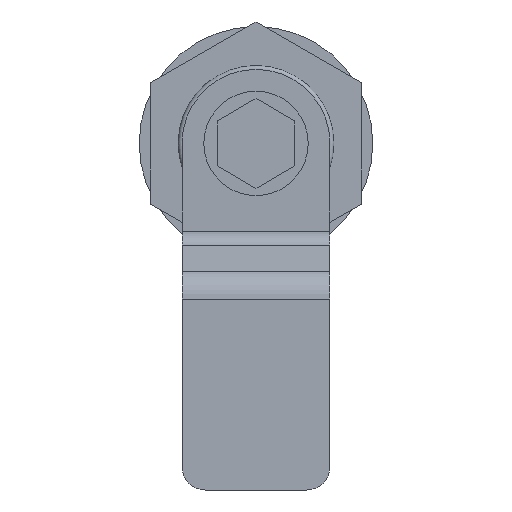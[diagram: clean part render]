
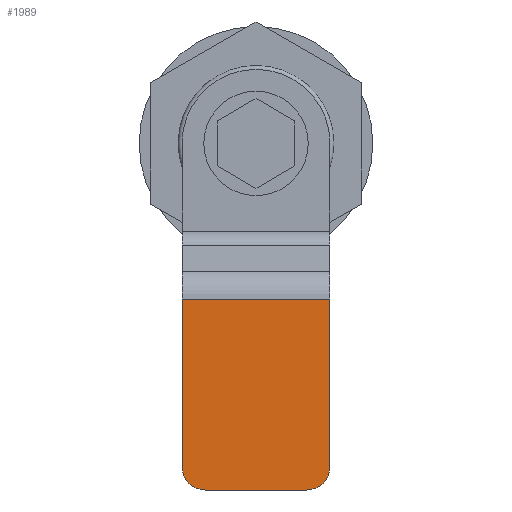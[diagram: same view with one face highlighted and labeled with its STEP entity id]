
A CAD part, front view. The second image highlights one B-rep face of the part: STEP entity #1989.
In plain terms, the highlighted planar face has unit normal (0, -1, 0).
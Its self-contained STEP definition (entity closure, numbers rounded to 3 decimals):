
#21 = VERTEX_POINT ( 'NONE', #1278 ) ;
#61 = VECTOR ( 'NONE', #1881, 1000. ) ;
#62 = LINE ( 'NONE', #351, #770 ) ;
#118 = VERTEX_POINT ( 'NONE', #1998 ) ;
#166 = AXIS2_PLACEMENT_3D ( 'NONE', #911, #1519, #2029 ) ;
#187 = DIRECTION ( 'NONE',  ( -1., 0., 0. ) ) ;
#299 = EDGE_CURVE ( 'NONE', #21, #1246, #740, .T. ) ;
#343 = EDGE_CURVE ( 'NONE', #118, #803, #1047, .T. ) ;
#351 = CARTESIAN_POINT ( 'NONE',  ( -44.428, -14., -44.5 ) ) ;
#401 = AXIS2_PLACEMENT_3D ( 'NONE', #1270, #1752, #787 ) ;
#460 = CARTESIAN_POINT ( 'NONE',  ( -9.5, -14., -20. ) ) ;
#670 = CIRCLE ( 'NONE', #166, 3. ) ;
#723 = EDGE_LOOP ( 'NONE', ( #1873, #994, #1550, #1199, #1710, #777 ) ) ;
#740 = LINE ( 'NONE', #1201, #61 ) ;
#770 = VECTOR ( 'NONE', #1775, 1000. ) ;
#777 = ORIENTED_EDGE ( 'NONE', *, *, #1020, .T. ) ;
#783 = FACE_OUTER_BOUND ( 'NONE', #723, .T. ) ;
#787 = DIRECTION ( 'NONE',  ( 0., 0., -1. ) ) ;
#793 = DIRECTION ( 'NONE',  ( 0., -1., 0. ) ) ;
#803 = VERTEX_POINT ( 'NONE', #1241 ) ;
#845 = CIRCLE ( 'NONE', #401, 3. ) ;
#846 = CARTESIAN_POINT ( 'NONE',  ( 6.5, -14., -44.5 ) ) ;
#911 = CARTESIAN_POINT ( 'NONE',  ( -6.5, -14., -41.5 ) ) ;
#968 = CARTESIAN_POINT ( 'NONE',  ( -44.428, -14., -44.5 ) ) ;
#981 = LINE ( 'NONE', #2067, #1500 ) ;
#987 = VERTEX_POINT ( 'NONE', #1797 ) ;
#994 = ORIENTED_EDGE ( 'NONE', *, *, #1643, .T. ) ;
#1020 = EDGE_CURVE ( 'NONE', #21, #987, #670, .T. ) ;
#1047 = LINE ( 'NONE', #1552, #1972 ) ;
#1131 = PLANE ( 'NONE',  #1874 ) ;
#1199 = ORIENTED_EDGE ( 'NONE', *, *, #2022, .T. ) ;
#1201 = CARTESIAN_POINT ( 'NONE',  ( -9.5, -14., -44.5 ) ) ;
#1241 = CARTESIAN_POINT ( 'NONE',  ( 9.5, -14., -41.5 ) ) ;
#1246 = VERTEX_POINT ( 'NONE', #460 ) ;
#1270 = CARTESIAN_POINT ( 'NONE',  ( 6.5, -14., -41.5 ) ) ;
#1278 = CARTESIAN_POINT ( 'NONE',  ( -9.5, -14., -41.5 ) ) ;
#1321 = VERTEX_POINT ( 'NONE', #846 ) ;
#1360 = EDGE_CURVE ( 'NONE', #987, #1321, #62, .T. ) ;
#1423 = DIRECTION ( 'NONE',  ( 0., 0., -1. ) ) ;
#1500 = VECTOR ( 'NONE', #187, 1000. ) ;
#1519 = DIRECTION ( 'NONE',  ( 0., -1., 0. ) ) ;
#1550 = ORIENTED_EDGE ( 'NONE', *, *, #343, .F. ) ;
#1552 = CARTESIAN_POINT ( 'NONE',  ( 9.5, -14., -44.5 ) ) ;
#1643 = EDGE_CURVE ( 'NONE', #1321, #803, #845, .T. ) ;
#1701 = DIRECTION ( 'NONE',  ( 0., 0., -1. ) ) ;
#1710 = ORIENTED_EDGE ( 'NONE', *, *, #299, .F. ) ;
#1752 = DIRECTION ( 'NONE',  ( 0., -1., 0. ) ) ;
#1775 = DIRECTION ( 'NONE',  ( 1., 0., 0. ) ) ;
#1797 = CARTESIAN_POINT ( 'NONE',  ( -6.5, -14., -44.5 ) ) ;
#1873 = ORIENTED_EDGE ( 'NONE', *, *, #1360, .T. ) ;
#1874 = AXIS2_PLACEMENT_3D ( 'NONE', #968, #793, #1423 ) ;
#1881 = DIRECTION ( 'NONE',  ( 0., 0., 1. ) ) ;
#1972 = VECTOR ( 'NONE', #1701, 1000. ) ;
#1989 = ADVANCED_FACE ( 'NONE', ( #783 ), #1131, .T. ) ;
#1998 = CARTESIAN_POINT ( 'NONE',  ( 9.5, -14., -20. ) ) ;
#2022 = EDGE_CURVE ( 'NONE', #118, #1246, #981, .T. ) ;
#2029 = DIRECTION ( 'NONE',  ( 0., 0., -1. ) ) ;
#2067 = CARTESIAN_POINT ( 'NONE',  ( -44.428, -14., -20. ) ) ;
